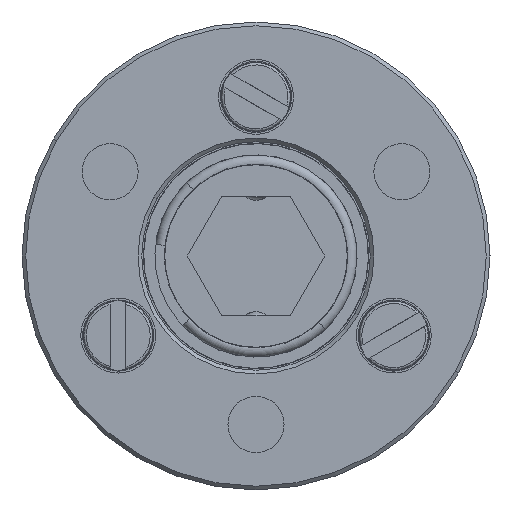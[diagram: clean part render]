
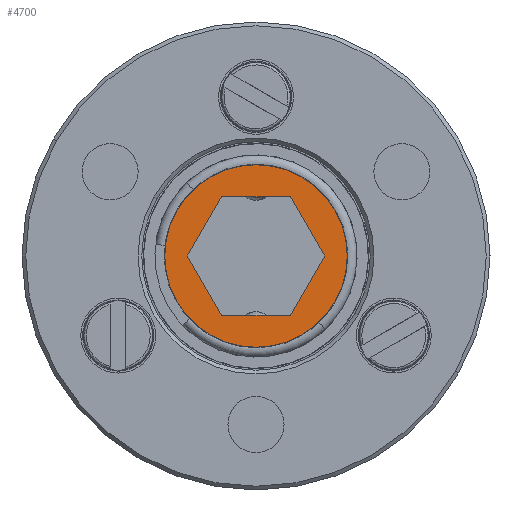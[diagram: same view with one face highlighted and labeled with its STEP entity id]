
A CAD part, left-side view. The second image highlights one B-rep face of the part: STEP entity #4700.
In plain terms, the highlighted planar face has unit normal (-1, 0, 0).
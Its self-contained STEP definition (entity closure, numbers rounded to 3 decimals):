
#24 = EDGE_LOOP ( 'NONE', ( #27144, #21089 ) ) ;
#100 = ORIENTED_EDGE ( 'NONE', *, *, #2607, .F. ) ;
#613 = LINE ( 'NONE', #18122, #19325 ) ;
#1373 = DIRECTION ( 'NONE',  ( -1., 0., 0. ) ) ;
#1739 = CARTESIAN_POINT ( 'NONE',  ( 360.891, 0., 4.875 ) ) ;
#2375 = EDGE_LOOP ( 'NONE', ( #18798, #25281, #26987, #100, #39432, #29704 ) ) ;
#2607 = EDGE_CURVE ( 'NONE', #23114, #20861, #18981, .T. ) ;
#2684 = DIRECTION ( 'NONE',  ( 0., 1., 0. ) ) ;
#4179 = AXIS2_PLACEMENT_3D ( 'NONE', #14239, #1373, #4990 ) ;
#4609 = VECTOR ( 'NONE', #29528, 1000. ) ;
#4700 = ADVANCED_FACE ( 'NONE', ( #34611, #14466 ), #23928, .T. ) ;
#4990 = DIRECTION ( 'NONE',  ( 0., 0., 1. ) ) ;
#6879 = VERTEX_POINT ( 'NONE', #27449 ) ;
#6971 = VECTOR ( 'NONE', #28761, 1000. ) ;
#7276 = CARTESIAN_POINT ( 'NONE',  ( 360.891, 1.833, 3.175 ) ) ;
#8355 = CIRCLE ( 'NONE', #9593, 4.875 ) ;
#8876 = DIRECTION ( 'NONE',  ( 0., 0., 1. ) ) ;
#9107 = CARTESIAN_POINT ( 'NONE',  ( 360.891, 0., -4.875 ) ) ;
#9593 = AXIS2_PLACEMENT_3D ( 'NONE', #14942, #20831, #29966 ) ;
#9921 = DIRECTION ( 'NONE',  ( 0., 0.5, -0.866 ) ) ;
#10449 = CARTESIAN_POINT ( 'NONE',  ( 360.891, 3.666, 0. ) ) ;
#10837 = CIRCLE ( 'NONE', #4179, 4.875 ) ;
#12800 = LINE ( 'NONE', #35812, #4609 ) ;
#14239 = CARTESIAN_POINT ( 'NONE',  ( 360.891, 0., 0. ) ) ;
#14265 = EDGE_CURVE ( 'NONE', #20861, #6879, #12800, .T. ) ;
#14329 = EDGE_CURVE ( 'NONE', #25914, #14404, #10837, .T. ) ;
#14404 = VERTEX_POINT ( 'NONE', #9107 ) ;
#14466 = FACE_OUTER_BOUND ( 'NONE', #24, .T. ) ;
#14942 = CARTESIAN_POINT ( 'NONE',  ( 360.891, 0., 0. ) ) ;
#15467 = CARTESIAN_POINT ( 'NONE',  ( 360.891, 0., 0. ) ) ;
#16059 = CARTESIAN_POINT ( 'NONE',  ( 360.891, -1.833, -3.175 ) ) ;
#16507 = LINE ( 'NONE', #39193, #37133 ) ;
#17487 = AXIS2_PLACEMENT_3D ( 'NONE', #15467, #39699, #8876 ) ;
#18122 = CARTESIAN_POINT ( 'NONE',  ( 360.891, 3.666, 0. ) ) ;
#18506 = LINE ( 'NONE', #28652, #29547 ) ;
#18707 = VERTEX_POINT ( 'NONE', #27416 ) ;
#18798 = ORIENTED_EDGE ( 'NONE', *, *, #37762, .F. ) ;
#18981 = LINE ( 'NONE', #16059, #6971 ) ;
#19325 = VECTOR ( 'NONE', #35946, 1000. ) ;
#20831 = DIRECTION ( 'NONE',  ( -1., 0., 0. ) ) ;
#20861 = VERTEX_POINT ( 'NONE', #24494 ) ;
#21089 = ORIENTED_EDGE ( 'NONE', *, *, #14329, .T. ) ;
#22290 = VECTOR ( 'NONE', #2684, 1000. ) ;
#23114 = VERTEX_POINT ( 'NONE', #25120 ) ;
#23928 = PLANE ( 'NONE',  #17487 ) ;
#24494 = CARTESIAN_POINT ( 'NONE',  ( 360.891, -3.666, 0. ) ) ;
#25120 = CARTESIAN_POINT ( 'NONE',  ( 360.891, -1.833, -3.175 ) ) ;
#25281 = ORIENTED_EDGE ( 'NONE', *, *, #35043, .F. ) ;
#25914 = VERTEX_POINT ( 'NONE', #1739 ) ;
#26987 = ORIENTED_EDGE ( 'NONE', *, *, #14265, .F. ) ;
#27144 = ORIENTED_EDGE ( 'NONE', *, *, #38749, .T. ) ;
#27416 = CARTESIAN_POINT ( 'NONE',  ( 360.891, 1.833, -3.175 ) ) ;
#27449 = CARTESIAN_POINT ( 'NONE',  ( 360.891, -1.833, 3.175 ) ) ;
#28652 = CARTESIAN_POINT ( 'NONE',  ( 360.891, 1.833, 3.175 ) ) ;
#28761 = DIRECTION ( 'NONE',  ( 0., -0.5, 0.866 ) ) ;
#29528 = DIRECTION ( 'NONE',  ( 0., 0.5, 0.866 ) ) ;
#29547 = VECTOR ( 'NONE', #9921, 1000. ) ;
#29704 = ORIENTED_EDGE ( 'NONE', *, *, #32761, .F. ) ;
#29966 = DIRECTION ( 'NONE',  ( 0., 0., 1. ) ) ;
#30243 = DIRECTION ( 'NONE',  ( 0., -1., 0. ) ) ;
#30436 = LINE ( 'NONE', #36478, #22290 ) ;
#31929 = EDGE_CURVE ( 'NONE', #18707, #23114, #16507, .T. ) ;
#32347 = VERTEX_POINT ( 'NONE', #7276 ) ;
#32761 = EDGE_CURVE ( 'NONE', #37779, #18707, #613, .T. ) ;
#34611 = FACE_BOUND ( 'NONE', #2375, .T. ) ;
#35043 = EDGE_CURVE ( 'NONE', #6879, #32347, #30436, .T. ) ;
#35812 = CARTESIAN_POINT ( 'NONE',  ( 360.891, -3.666, 0. ) ) ;
#35946 = DIRECTION ( 'NONE',  ( 0., -0.5, -0.866 ) ) ;
#36478 = CARTESIAN_POINT ( 'NONE',  ( 360.891, -1.833, 3.175 ) ) ;
#37133 = VECTOR ( 'NONE', #30243, 1000. ) ;
#37762 = EDGE_CURVE ( 'NONE', #32347, #37779, #18506, .T. ) ;
#37779 = VERTEX_POINT ( 'NONE', #10449 ) ;
#38749 = EDGE_CURVE ( 'NONE', #14404, #25914, #8355, .T. ) ;
#39193 = CARTESIAN_POINT ( 'NONE',  ( 360.891, 1.833, -3.175 ) ) ;
#39432 = ORIENTED_EDGE ( 'NONE', *, *, #31929, .F. ) ;
#39699 = DIRECTION ( 'NONE',  ( -1., 0., 0. ) ) ;
